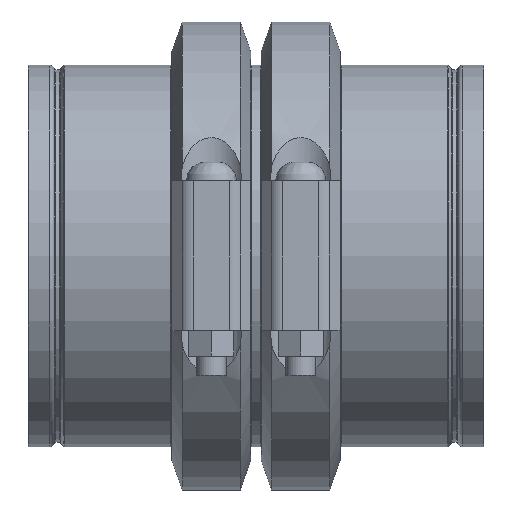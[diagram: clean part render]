
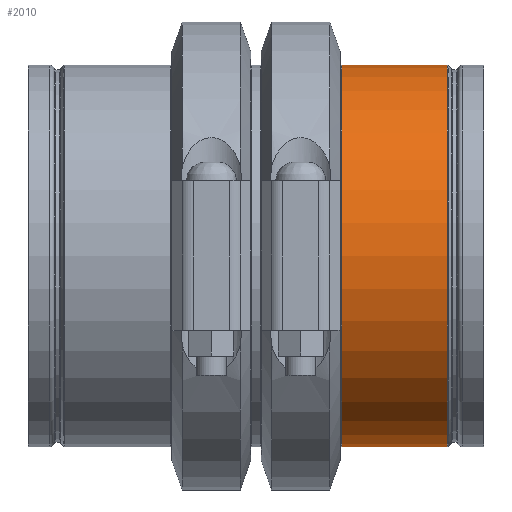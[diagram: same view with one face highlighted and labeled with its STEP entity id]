
A CAD part, top view. The second image highlights one B-rep face of the part: STEP entity #2010.
In plain terms, the highlighted cylindrical face has radius 161.925 mm (diameter 323.85 mm), a full revolution.
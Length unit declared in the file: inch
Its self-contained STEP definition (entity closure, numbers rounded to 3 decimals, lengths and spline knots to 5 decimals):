
#74=LINE('',#3285,#169);
#169=VECTOR('',#2634,6.375);
#264=CYLINDRICAL_SURFACE('',#2268,6.375);
#386=FACE_OUTER_BOUND('',#498,.T.);
#498=EDGE_LOOP('',(#1384,#1385,#1386,#1387,#1388,#1389,#1390,#1391));
#659=CIRCLE('',#2264,6.375);
#660=CIRCLE('',#2265,6.375);
#662=CIRCLE('',#2267,6.375);
#663=CIRCLE('',#2269,6.375);
#664=CIRCLE('',#2270,6.375);
#665=CIRCLE('',#2271,6.375);
#828=VERTEX_POINT('',#3272);
#829=VERTEX_POINT('',#3273);
#830=VERTEX_POINT('',#3275);
#831=VERTEX_POINT('',#3280);
#832=VERTEX_POINT('',#3281);
#833=VERTEX_POINT('',#3283);
#1047=EDGE_CURVE('',#828,#829,#659,.T.);
#1048=EDGE_CURVE('',#829,#830,#660,.T.);
#1050=EDGE_CURVE('',#830,#828,#662,.T.);
#1051=EDGE_CURVE('',#831,#832,#663,.T.);
#1052=EDGE_CURVE('',#833,#831,#664,.T.);
#1053=EDGE_CURVE('',#833,#829,#74,.T.);
#1054=EDGE_CURVE('',#832,#833,#665,.T.);
#1384=ORIENTED_EDGE('',*,*,#1051,.F.);
#1385=ORIENTED_EDGE('',*,*,#1052,.F.);
#1386=ORIENTED_EDGE('',*,*,#1053,.T.);
#1387=ORIENTED_EDGE('',*,*,#1047,.F.);
#1388=ORIENTED_EDGE('',*,*,#1050,.F.);
#1389=ORIENTED_EDGE('',*,*,#1048,.F.);
#1390=ORIENTED_EDGE('',*,*,#1053,.F.);
#1391=ORIENTED_EDGE('',*,*,#1054,.F.);
#2010=ADVANCED_FACE('',(#386),#264,.T.);
#2264=AXIS2_PLACEMENT_3D('',#3274,#2620,#2621);
#2265=AXIS2_PLACEMENT_3D('',#3276,#2622,#2623);
#2267=AXIS2_PLACEMENT_3D('',#3278,#2626,#2627);
#2268=AXIS2_PLACEMENT_3D('',#3279,#2628,#2629);
#2269=AXIS2_PLACEMENT_3D('',#3282,#2630,#2631);
#2270=AXIS2_PLACEMENT_3D('',#3284,#2632,#2633);
#2271=AXIS2_PLACEMENT_3D('',#3286,#2635,#2636);
#2620=DIRECTION('center_axis',(-1.,0.,0.));
#2621=DIRECTION('ref_axis',(0.,-1.,0.));
#2622=DIRECTION('center_axis',(-1.,0.,0.));
#2623=DIRECTION('ref_axis',(0.,-1.,0.));
#2626=DIRECTION('center_axis',(-1.,0.,0.));
#2627=DIRECTION('ref_axis',(0.,-1.,0.));
#2628=DIRECTION('center_axis',(1.,0.,0.));
#2629=DIRECTION('ref_axis',(0.,1.,0.));
#2630=DIRECTION('center_axis',(1.,0.,0.));
#2631=DIRECTION('ref_axis',(0.,-1.,0.));
#2632=DIRECTION('center_axis',(1.,0.,0.));
#2633=DIRECTION('ref_axis',(0.,-1.,0.));
#2634=DIRECTION('',(-1.,0.,0.));
#2635=DIRECTION('center_axis',(1.,0.,0.));
#2636=DIRECTION('ref_axis',(0.,-1.,0.));
#3272=CARTESIAN_POINT('',(1.249,6.375,0.));
#3273=CARTESIAN_POINT('',(1.249,-6.375,0.));
#3274=CARTESIAN_POINT('Origin',(1.249,0.,0.));
#3275=CARTESIAN_POINT('',(1.249,0.,6.375));
#3276=CARTESIAN_POINT('Origin',(1.249,0.,0.));
#3278=CARTESIAN_POINT('Origin',(1.249,0.,0.));
#3279=CARTESIAN_POINT('Origin',(3.01773,0.,0.));
#3280=CARTESIAN_POINT('',(4.78523,6.375,0.));
#3281=CARTESIAN_POINT('',(4.78523,0.,6.375));
#3282=CARTESIAN_POINT('Origin',(4.78523,0.,0.));
#3283=CARTESIAN_POINT('',(4.78523,-6.375,0.));
#3284=CARTESIAN_POINT('Origin',(4.78523,0.,0.));
#3285=CARTESIAN_POINT('',(3.01773,-6.375,0.));
#3286=CARTESIAN_POINT('Origin',(4.78523,0.,0.));
